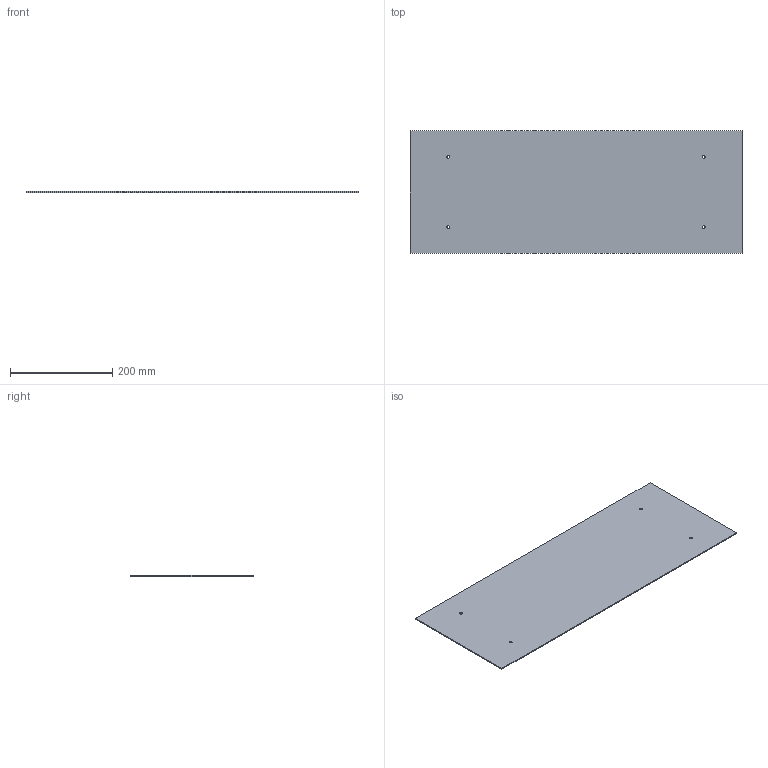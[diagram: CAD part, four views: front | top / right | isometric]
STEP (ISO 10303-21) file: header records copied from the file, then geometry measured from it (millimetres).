
FILE_DESCRIPTION(('CATIA V5 STEP Exchange'),'2;1');
FILE_NAME('D:\姚明阳\1、工装图纸\工作3、激光测距测试机箱\测试机箱\板材\Shanggaiban_V1.stp','2022-12-27T08:55:54+00:00',('none'),('none'),'CATIA Version 5 Release 21 GA (IN-10)','CATIA V5 STEP AP214','none');
FILE_SCHEMA(('AUTOMOTIVE_DESIGN { 1 0 10303 214 1 1 1 1 }'));
Length unit declared in the file: millimetre
Products named in the file (1): Shanggaiban
Bounding box: 650 x 240 x 2 mm (x, y, z)
Volume: 311809.9 mm3; surface area: 315508.2 mm2
Topology: 1 solids, 1 shells, 14 faces, 36 edges, 24 vertices
Faces by surface type: cylinder 8, plane 6
Entity records: 438 total; most frequent: ORIENTED_EDGE 72, CARTESIAN_POINT 71, DIRECTION 56, EDGE_CURVE 36, AXIS2_PLACEMENT_3D 27, VERTEX_POINT 24, EDGE_LOOP 22, VECTOR 20
